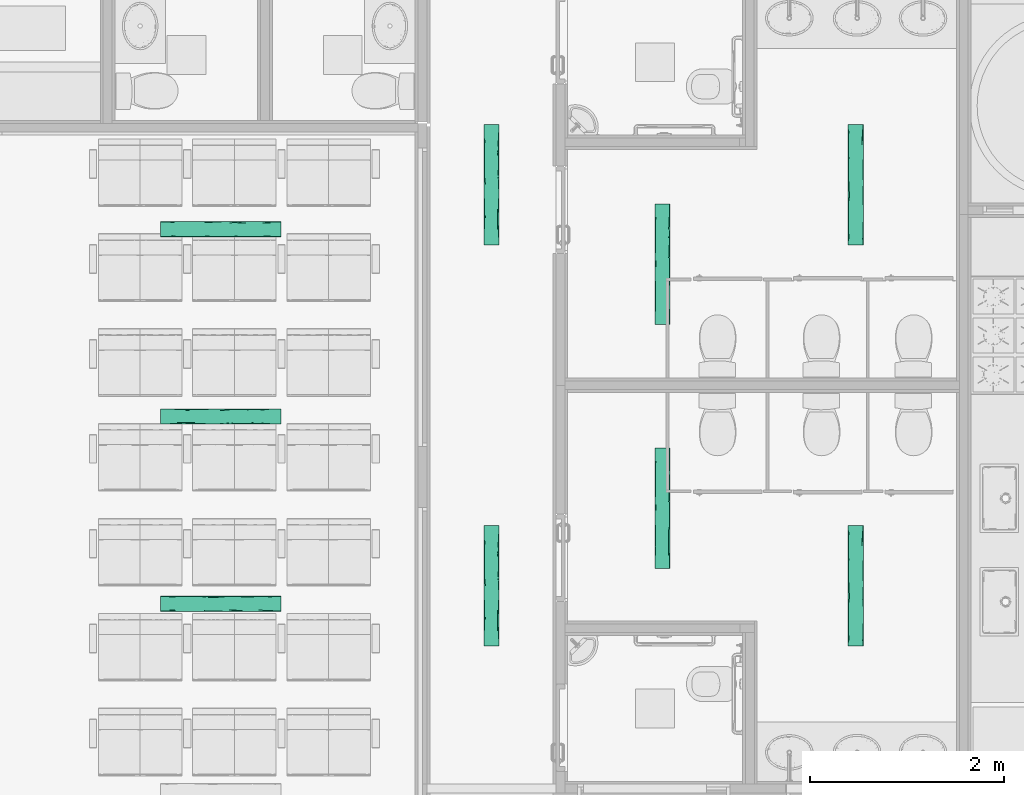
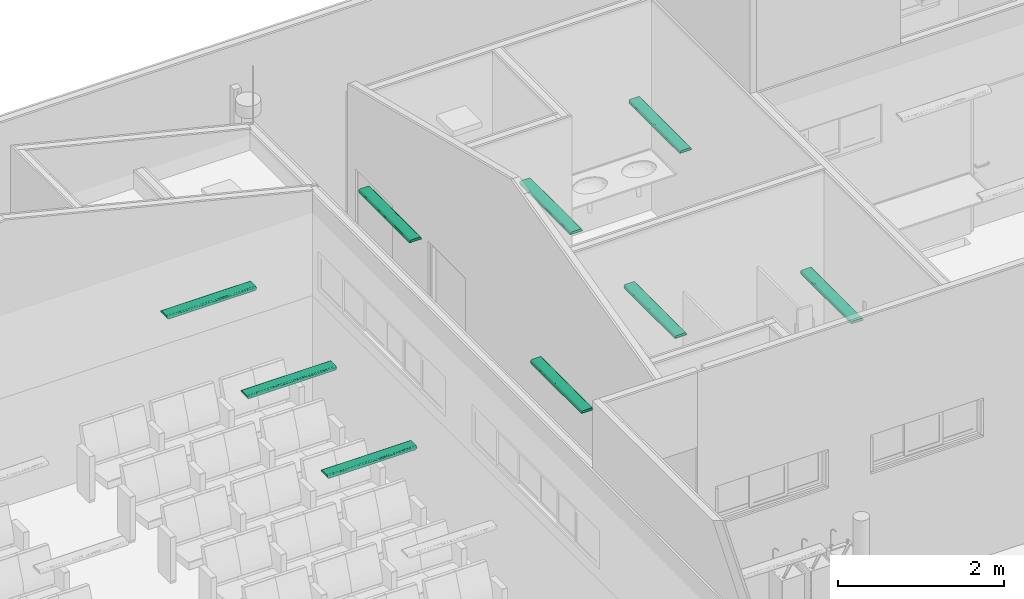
# One storey, part 62 of 155: 9 flow terminals.
"""IFC2X3 building model written with IfcOpenShell, lengths in metres."""

from ifc_helpers import new_model, entity, si_unit, converted_unit, derived_unit, direction, frame, origin, place, context, subcontext, project, spatial, faceted_brep, source, transform, mapped, material, material_list, type_object, type_shapes, element, save


model = new_model("IFC2X3")

# Units and contexts
model_context = context("Model", 3, precision=1e-05, world=origin(), true_north=direction((6.12303176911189e-17, 1.0)))
body_context = subcontext(model_context, "Body", "Model", "MODEL_VIEW")
ifc_project = project(units=[si_unit("LENGTHUNIT", "METRE"), si_unit("AREAUNIT", "SQUARE_METRE"), si_unit("VOLUMEUNIT", "CUBIC_METRE"), converted_unit("PLANEANGLEUNIT", "DEGREE", entity("IfcRatioMeasure", 0.0174532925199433), si_unit("PLANEANGLEUNIT", "RADIAN"), dimensions=[0, 0, 0, 0, 0, 0, 0]), si_unit("MASSUNIT", "GRAM", prefix="KILO"), derived_unit("MASSDENSITYUNIT", [(si_unit("MASSUNIT", "GRAM", prefix="KILO"), 1), (si_unit("LENGTHUNIT", "METRE"), -3)]), si_unit("TIMEUNIT", "SECOND"), si_unit("FREQUENCYUNIT", "HERTZ"), si_unit("THERMODYNAMICTEMPERATUREUNIT", "DEGREE_CELSIUS"), derived_unit("THERMALTRANSMITTANCEUNIT", [(si_unit("MASSUNIT", "GRAM", prefix="KILO"), 1), (si_unit("THERMODYNAMICTEMPERATUREUNIT", "KELVIN"), -1), (si_unit("TIMEUNIT", "SECOND"), -3)]), derived_unit("VOLUMETRICFLOWRATEUNIT", [(si_unit("LENGTHUNIT", "METRE"), 3), (si_unit("TIMEUNIT", "SECOND"), -1)]), si_unit("ELECTRICCURRENTUNIT", "AMPERE"), si_unit("ELECTRICVOLTAGEUNIT", "VOLT"), si_unit("POWERUNIT", "WATT"), si_unit("FORCEUNIT", "NEWTON", prefix="KILO"), si_unit("ILLUMINANCEUNIT", "LUX"), si_unit("LUMINOUSFLUXUNIT", "LUMEN"), si_unit("LUMINOUSINTENSITYUNIT", "CANDELA"), derived_unit("USERDEFINED", [(si_unit("MASSUNIT", "GRAM", prefix="KILO"), -1), (si_unit("LENGTHUNIT", "METRE"), -2), (si_unit("TIMEUNIT", "SECOND"), 3), (si_unit("LUMINOUSFLUXUNIT", "LUMEN"), 1)]), derived_unit("LINEARVELOCITYUNIT", [(si_unit("LENGTHUNIT", "METRE"), 1), (si_unit("TIMEUNIT", "SECOND"), -1)]), si_unit("PRESSUREUNIT", "PASCAL"), derived_unit("USERDEFINED", [(si_unit("LENGTHUNIT", "METRE"), -2), (si_unit("MASSUNIT", "GRAM", prefix="KILO"), 1), (si_unit("TIMEUNIT", "SECOND"), -2)])], contexts=[model_context])

# Site, building, storey, space
site_placement = place(None, frame((26.9889013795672, -17.5624287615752, 0.0)))
site = spatial("IfcSite", under=ifc_project, at=site_placement, Name="Default", CompositionType="ELEMENT")
building_placement = place(site_placement, origin())
building = spatial("IfcBuilding", under=site, at=building_placement, Name="C. C. L. Monsenhor Antônio Sampaio", CompositionType="ELEMENT")
storey_placement = place(building_placement, frame((0.0, 0.0, 1.19999999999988)))
storey = spatial("IfcBuildingStorey", under=building, at=storey_placement, Name="Nível 1.2", CompositionType="ELEMENT", Elevation=1.19999999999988)
space_1_placement = place(storey_placement, origin())
space_1 = spatial("IfcSpace", under=storey, at=space_1_placement, Name="94", CompositionType="ELEMENT", InteriorOrExteriorSpace="INTERNAL")

# Flow terminals
ifc_material_1 = material(Name="glass - blue - t85")
ifc_material_2 = material(Name="metal - aluminium")
ifc_material_list_1 = material_list([ifc_material_1, ifc_material_2])
ifc_material_list_2 = material_list([ifc_material_1, ifc_material_2])
light_fixture_type = type_object("IfcLightFixtureType", Name="BCS460 W16L124 1xLED24/840 MLO-PC", PredefinedType="NOTDEFINED", material=ifc_material_list_2)
shared_shape = source(origin(), body_context, "Body", "Brep", [
    faceted_brep([(0.585000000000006, 0.0435000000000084, -0.0460000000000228), (0.585000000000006, -0.0434999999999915, -0.0460000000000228), (0.585000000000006, -0.0434999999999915, -0.0490000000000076), (0.585000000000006, 0.0435000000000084, -0.0490000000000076), (-0.584999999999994, 0.0435000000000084, -0.0460000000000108), (-0.584999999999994, 0.0435000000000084, -0.0489999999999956), (-0.584999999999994, -0.0434999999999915, -0.0489999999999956), (-0.584999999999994, -0.0434999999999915, -0.0460000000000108)], [[[0, 1, 2, 3]], [[4, 5, 6, 7]], [[3, 5, 4, 0]], [[2, 6, 5, 3]], [[1, 7, 6, 2]], [[0, 4, 7, 1]]]),
    faceted_brep([(-0.584999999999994, -0.0434999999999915, -0.0489999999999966), (0.585000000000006, -0.0434999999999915, -0.0490000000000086), (0.585000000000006, -0.0554999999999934, -0.0490000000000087), (0.417543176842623, -0.0554999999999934, -0.0490000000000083), (0.334912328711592, -0.0554999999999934, -0.0490000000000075), (0.209867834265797, -0.0554999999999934, -0.0490000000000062), (0.0848246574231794, -0.0554999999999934, -0.0490000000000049), (-0.0826321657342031, -0.0554999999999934, -0.0490000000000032), (-0.250087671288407, -0.0554999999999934, -0.0490000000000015), (-0.417543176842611, -0.0554999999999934, -0.0489999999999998), (-0.584999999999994, -0.0554999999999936, -0.0489999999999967), (-0.584999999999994, 0.0435000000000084, -0.0489999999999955), (-0.584999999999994, 0.0555000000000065, -0.0489999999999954), (-0.417543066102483, 0.0555000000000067, -0.0489999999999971), (-0.334913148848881, 0.0555000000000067, -0.048999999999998), (-0.209868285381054, 0.0555000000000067, -0.0489999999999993), (-0.0848248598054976, 0.0555000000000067, -0.0490000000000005), (0.0826306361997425, 0.0555000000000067, -0.0490000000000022), (0.250087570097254, 0.0555000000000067, -0.049000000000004), (0.417544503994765, 0.0555000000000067, -0.0490000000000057), (0.585000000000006, 0.0555000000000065, -0.0490000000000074), (0.585000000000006, 0.0435000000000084, -0.0490000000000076), (0.585000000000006, -0.0434999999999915, -0.0190000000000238), (0.585000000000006, 0.0435000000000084, -0.0190000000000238), (0.585000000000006, 0.0614528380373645, -0.0482162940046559), (0.585000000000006, 0.0670000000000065, -0.0459185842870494), (0.585000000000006, 0.0717634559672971, -0.0422634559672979), (0.585000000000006, 0.0754185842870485, -0.0375000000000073), (0.585000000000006, 0.077716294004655, -0.0319528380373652), (0.585000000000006, 0.0785000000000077, -0.0260000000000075), (0.585000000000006, 0.0785000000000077, 0.0), (0.585000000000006, -0.0784999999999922, 0.0), (0.585000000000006, -0.0784999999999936, -0.02600000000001), (0.585000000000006, -0.0777162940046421, -0.031952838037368), (0.585000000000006, -0.0754185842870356, -0.03750000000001), (0.585000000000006, -0.0717634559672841, -0.0422634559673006), (0.585000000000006, -0.0669999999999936, -0.0459185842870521), (0.585000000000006, -0.0614528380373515, -0.0482162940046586), (-0.584999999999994, 0.0435000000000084, -0.0190000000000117), (-0.584999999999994, -0.0434999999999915, -0.0190000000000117), (-0.584999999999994, -0.0614528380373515, -0.0482162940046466), (-0.584999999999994, -0.0669999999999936, -0.0459185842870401), (-0.584999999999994, -0.0717634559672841, -0.0422634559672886), (-0.584999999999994, -0.0754185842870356, -0.037499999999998), (-0.584999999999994, -0.0777162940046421, -0.031952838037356), (-0.584999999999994, -0.0784999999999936, -0.025999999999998), (-0.584999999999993, -0.0784999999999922, 0.0), (-0.584999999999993, 0.0785000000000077, 0.0), (-0.584999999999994, 0.0785000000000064, -0.0259999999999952), (-0.584999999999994, 0.077716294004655, -0.0319528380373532), (-0.584999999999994, 0.0754185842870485, -0.0374999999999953), (-0.584999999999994, 0.0717634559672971, -0.0422634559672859), (-0.584999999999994, 0.0670000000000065, -0.0459185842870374), (-0.584999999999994, 0.0614528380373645, -0.0482162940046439), (0.417543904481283, 0.0785000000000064, -0.0260000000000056), (0.334912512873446, 0.0785000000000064, -0.0260000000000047), (0.209868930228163, 0.0785000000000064, -0.0260000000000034), (0.0848250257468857, 0.0785000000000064, -0.0260000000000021), (-0.0826310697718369, 0.0785000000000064, -0.0260000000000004), (-0.250087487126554, 0.0785000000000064, -0.0259999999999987), (-0.417543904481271, 0.0785000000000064, -0.025999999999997), (-0.430283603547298, 0.073747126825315, -0.0400015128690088), (-0.39346878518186, 0.069501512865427, -0.0442471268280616), (-0.441987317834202, 0.0643017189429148, -0.0472492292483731), (-0.435801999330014, 0.0759760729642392, -0.0364752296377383), (0.43028360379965, 0.0695015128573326, -0.0442471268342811), (0.393468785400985, 0.0737471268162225, -0.0400015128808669), (-0.166359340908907, 0.0777768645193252, -0.0317220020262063), (-0.333815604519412, 0.078144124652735, -0.0300303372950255), (0.441987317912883, 0.0767492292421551, -0.0348017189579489), (0.376228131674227, 0.0780233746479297, -0.0306580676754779), (-0.0103058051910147, 0.0779837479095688, -0.0308457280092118), (0.147346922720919, 0.0778835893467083, -0.0312891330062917), (0.0846877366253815, 0.0752228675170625, -0.0378325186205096), (0.113930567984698, 0.0669406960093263, -0.0459527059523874), (0.259392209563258, 0.0628104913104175, -0.0478072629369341), (0.138751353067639, 0.0626656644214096, -0.0478552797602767), (-0.327642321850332, 0.0767492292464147, -0.0348017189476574), (-0.44845841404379, 0.0775260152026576, -0.0326222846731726), (0.274715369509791, 0.0767492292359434, -0.0348017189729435), (0.37104983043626, 0.0643017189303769, -0.0472492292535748), (0.333815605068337, 0.0596187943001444, -0.0486282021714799), (0.0893720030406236, 0.0707479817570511, -0.0432191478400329), (-0.0153938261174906, 0.0683034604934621, -0.0451068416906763), (-0.376228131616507, 0.0601580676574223, -0.0485233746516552), (0.0434325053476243, 0.059742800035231, -0.048605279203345), (0.218757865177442, 0.0695015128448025, -0.0442471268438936), (0.464656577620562, 0.0597129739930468, -0.0486108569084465), (0.199843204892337, 0.0732493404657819, -0.0406274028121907), (-0.274715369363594, 0.0643017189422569, -0.0472492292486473), (-0.115235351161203, 0.073747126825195, -0.0400015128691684), (-0.150791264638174, 0.070206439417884, -0.0436839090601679), (-0.272759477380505, 0.0724713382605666, -0.0415233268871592), (-0.00814072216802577, 0.0636892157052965, -0.0474927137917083), (-0.14734692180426, 0.0607891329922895, -0.0483835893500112), (-0.269938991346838, 0.0692956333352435, -0.0444032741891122), (-0.201904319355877, 0.0758204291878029, -0.0367740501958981), (-0.0663340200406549, 0.0763921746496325, -0.0356185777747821), (-0.139314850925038, 0.066006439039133, -0.046460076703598), (-0.430283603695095, -0.0695015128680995, -0.0442471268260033), (-0.393468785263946, -0.073747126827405, -0.0400015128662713), (-0.44198731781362, -0.0767492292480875, -0.0348017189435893), (-0.435801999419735, -0.06597522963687, -0.0464760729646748), (0.430283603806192, -0.0737471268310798, -0.0400015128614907), (0.393468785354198, -0.0695015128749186, -0.0442471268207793), (-0.166359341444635, -0.061222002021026, -0.0482768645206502), (-0.333815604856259, -0.0595303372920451, -0.0486441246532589), (0.441987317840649, -0.0643017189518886, -0.0472492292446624), (0.37622813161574, -0.0601580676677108, -0.0485233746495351), (-0.0103058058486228, -0.0603457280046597, -0.0484837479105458), (0.147346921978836, -0.0607891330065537, -0.0483835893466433), (0.0846877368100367, -0.0673325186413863, -0.0457228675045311), (0.113930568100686, -0.0754527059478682, -0.0374406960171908), (0.259392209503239, -0.0773072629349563, -0.0333104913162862), (0.138751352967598, -0.0773552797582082, -0.0331656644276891), (-0.327642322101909, -0.0643017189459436, -0.047249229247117), (-0.448458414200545, -0.062122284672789, -0.048026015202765), (-0.417543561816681, -0.0784999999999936, -0.0259999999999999), (0.274715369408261, -0.0643017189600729, -0.0472492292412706), (0.371049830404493, -0.0767492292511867, -0.0348017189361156), (0.333815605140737, -0.0781282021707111, -0.0301187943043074), (0.250087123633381, -0.0784999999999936, -0.0260000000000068), (0.0893720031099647, -0.0727191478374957, -0.041247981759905), (-0.0153938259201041, -0.074606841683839, -0.0388034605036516), (-0.376228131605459, -0.0780233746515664, -0.0306580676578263), (0.0826306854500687, -0.0784999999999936, -0.026000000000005), (-0.0848257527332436, -0.0784999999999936, -0.0260000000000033), (0.0434325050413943, -0.0781052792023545, -0.030242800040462), (0.417543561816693, -0.0784999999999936, -0.0260000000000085), (0.21875786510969, -0.0737471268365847, -0.0400015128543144), (0.464656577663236, -0.0781108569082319, -0.0302129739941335), (0.19984320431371, -0.0701274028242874, -0.0437493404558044), (-0.274715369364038, -0.0767492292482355, -0.0348017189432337), (-0.115235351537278, -0.0695015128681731, -0.0442471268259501), (-0.150791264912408, -0.0731839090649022, -0.0407064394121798), (-0.209869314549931, -0.0784999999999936, -0.026000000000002), (-0.334912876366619, -0.0784999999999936, -0.0260000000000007), (-0.272759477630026, -0.071023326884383, -0.0429713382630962), (-0.00814072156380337, -0.0769927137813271, -0.0341892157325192), (-0.147346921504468, -0.0778835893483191, -0.03128913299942), (-0.269938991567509, -0.0739032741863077, -0.0397956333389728), (-0.201904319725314, -0.0662740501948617, -0.0463204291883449), (-0.0663340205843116, -0.0651185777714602, -0.0468921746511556), (-0.139314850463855, -0.0759600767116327, -0.0365064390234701)], [[[0, 1, 2, 3, 4, 5, 6, 7, 8, 9, 10]], [[11, 12, 13, 14, 15, 16, 17, 18, 19, 20, 21]], [[22, 23, 21, 20, 24, 25, 26, 27, 28, 29, 30, 31, 32, 33, 34, 35, 36, 37, 2, 1]], [[12, 11, 38, 39, 0, 10, 40, 41, 42, 43, 44, 45, 46, 47, 48, 49, 50, 51, 52, 53]], [[47, 30, 29, 54, 55, 56, 57, 58, 59, 60, 48]], [[61, 51, 50]], [[62, 51, 61]], [[51, 62, 52]], [[62, 63, 52]], [[63, 53, 52]], [[61, 50, 64]], [[26, 65, 66]], [[26, 25, 65]], [[54, 29, 28]], [[67, 68, 59]], [[69, 70, 28]], [[71, 72, 73]], [[74, 75, 76]], [[26, 66, 27]], [[77, 78, 68]], [[13, 12, 53]], [[69, 27, 66]], [[79, 73, 72]], [[24, 80, 25]], [[70, 79, 72]], [[69, 28, 27]], [[75, 81, 18]], [[82, 74, 83]], [[63, 84, 53]], [[17, 16, 85]], [[19, 18, 81]], [[75, 74, 86]], [[87, 81, 80]], [[73, 79, 88]], [[70, 56, 55, 54]], [[80, 86, 65]], [[89, 63, 62]], [[90, 83, 91]], [[84, 15, 14, 13]], [[61, 77, 92]], [[59, 68, 60]], [[78, 49, 48]], [[20, 87, 24]], [[93, 76, 85]], [[66, 65, 86]], [[65, 25, 80]], [[62, 61, 92]], [[77, 64, 78]], [[92, 90, 91]], [[89, 94, 84]], [[28, 70, 54]], [[79, 69, 66]], [[53, 84, 13]], [[91, 95, 92]], [[96, 90, 92]], [[56, 72, 57]], [[70, 69, 79]], [[70, 72, 56]], [[67, 59, 58]], [[71, 67, 58]], [[71, 58, 57]], [[83, 90, 82]], [[88, 82, 73]], [[96, 97, 90]], [[71, 73, 97]], [[15, 94, 16]], [[84, 63, 89]], [[84, 94, 15]], [[98, 83, 93]], [[83, 98, 91]], [[18, 17, 76]], [[62, 92, 95]], [[98, 95, 91]], [[98, 94, 89]], [[74, 76, 93]], [[93, 94, 98]], [[85, 16, 94]], [[19, 81, 87]], [[80, 81, 75]], [[19, 87, 20]], [[24, 87, 80]], [[78, 48, 60]], [[77, 68, 67]], [[68, 78, 60]], [[49, 78, 50]], [[78, 64, 50]], [[64, 77, 61]], [[94, 93, 85]], [[85, 76, 17]], [[97, 67, 71]], [[72, 71, 57]], [[77, 67, 96]], [[90, 97, 73]], [[97, 96, 67]], [[77, 96, 92]], [[80, 75, 86]], [[76, 75, 18]], [[95, 89, 62]], [[89, 95, 98]], [[86, 74, 82]], [[83, 74, 93]], [[86, 82, 88]], [[73, 82, 90]], [[88, 66, 86]], [[66, 88, 79]], [[99, 42, 41]], [[100, 42, 99]], [[42, 100, 43]], [[100, 101, 43]], [[101, 44, 43]], [[99, 41, 102]], [[35, 103, 104]], [[35, 34, 103]], [[3, 2, 37]], [[105, 106, 8]], [[107, 108, 37]], [[109, 110, 111]], [[112, 113, 114]], [[35, 104, 36]], [[115, 116, 106]], [[117, 45, 44]], [[107, 36, 104]], [[118, 111, 110]], [[33, 119, 34]], [[108, 118, 110]], [[107, 37, 36]], [[113, 120, 121]], [[122, 112, 123]], [[101, 124, 44]], [[125, 126, 127]], [[128, 121, 120]], [[113, 112, 129]], [[130, 120, 119]], [[111, 118, 131]], [[108, 5, 4, 3]], [[119, 129, 103]], [[132, 101, 100]], [[133, 123, 134]], [[124, 135, 136, 117]], [[99, 115, 137]], [[8, 106, 9]], [[116, 40, 10]], [[32, 130, 33]], [[138, 114, 127]], [[104, 103, 129]], [[103, 34, 119]], [[100, 99, 137]], [[115, 102, 116]], [[137, 133, 134]], [[132, 139, 124]], [[37, 108, 3]], [[118, 107, 104]], [[44, 124, 117]], [[134, 140, 137]], [[141, 133, 137]], [[5, 110, 6]], [[108, 107, 118]], [[108, 110, 5]], [[105, 8, 7]], [[109, 105, 7]], [[109, 7, 6]], [[123, 133, 122]], [[131, 122, 111]], [[141, 142, 133]], [[109, 111, 142]], [[135, 139, 126]], [[124, 101, 132]], [[124, 139, 135]], [[143, 123, 138]], [[123, 143, 134]], [[121, 125, 114]], [[100, 137, 140]], [[143, 140, 134]], [[143, 139, 132]], [[112, 114, 138]], [[138, 139, 143]], [[127, 126, 139]], [[128, 120, 130]], [[119, 120, 113]], [[128, 130, 32]], [[33, 130, 119]], [[116, 10, 9]], [[115, 106, 105]], [[106, 116, 9]], [[40, 116, 41]], [[116, 102, 41]], [[102, 115, 99]], [[139, 138, 127]], [[127, 114, 125]], [[142, 105, 109]], [[110, 109, 6]], [[115, 105, 141]], [[133, 142, 111]], [[142, 141, 105]], [[115, 141, 137]], [[119, 113, 129]], [[114, 113, 121]], [[140, 132, 100]], [[132, 140, 143]], [[129, 112, 122]], [[123, 112, 138]], [[129, 122, 131]], [[111, 122, 133]], [[131, 104, 129]], [[104, 131, 118]], [[31, 46, 45, 117, 136, 135, 126, 125, 121, 128, 32]], [[46, 31, 30, 47]], [[21, 23, 38, 11]], [[22, 1, 0, 39]], [[23, 22, 39, 38]]]),
    faceted_brep([(0.597000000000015, 0.0785000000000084, 0.0), (0.602952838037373, 0.0785000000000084, -0.000783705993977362), (0.608500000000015, 0.0785000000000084, -0.00308141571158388), (0.613263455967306, 0.0785000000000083, -0.00673654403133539), (0.616918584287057, 0.0785000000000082, -0.011499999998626), (0.619216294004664, 0.0785000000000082, -0.017047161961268), (0.620000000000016, 0.0785000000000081, -0.0229999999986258), (0.620000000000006, 0.0785000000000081, -0.0259999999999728), (0.585000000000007, 0.0785000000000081, -0.0259999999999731), (0.585000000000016, 0.0785000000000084, 0.0), (0.619216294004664, -0.0784999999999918, -0.0170471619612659), (0.616918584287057, -0.0784999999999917, -0.0114999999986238), (0.613263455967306, -0.0784999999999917, -0.00673654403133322), (0.608500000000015, -0.0784999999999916, -0.00308141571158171), (0.602952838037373, -0.0784999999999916, -0.000783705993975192), (0.597000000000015, -0.0784999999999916, 0.0), (0.585000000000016, -0.0784999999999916, 0.0), (0.585000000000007, -0.0784999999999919, -0.0260000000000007), (0.620000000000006, -0.0784999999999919, -0.0260000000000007), (0.620000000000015, -0.0784999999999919, -0.0229999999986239), (0.620000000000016, 0.0669999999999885, -0.0459185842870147), (0.620000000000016, 0.0717634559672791, -0.0422634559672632), (0.620000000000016, 0.0754185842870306, -0.0374999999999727), (0.620000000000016, 0.0777162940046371, -0.0319528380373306), (0.620000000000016, -0.0777162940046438, -0.0319528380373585), (0.620000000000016, -0.0754185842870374, -0.0375000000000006), (0.620000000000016, -0.071763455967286, -0.0422634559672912), (0.620000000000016, -0.0669999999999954, -0.0459185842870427), (0.620000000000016, -0.0614528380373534, -0.0482162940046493), (0.620000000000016, -0.0554999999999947, -0.0489999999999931), (0.620000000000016, 0.0554999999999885, -0.0489999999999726), (0.620000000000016, 0.0614528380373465, -0.0482162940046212), (0.585000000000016, 0.0554999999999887, -0.048999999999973), (0.585000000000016, -0.0554999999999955, -0.0490000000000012), (0.585000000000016, -0.0614528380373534, -0.0482162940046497), (0.585000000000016, -0.0669999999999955, -0.0459185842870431), (0.585000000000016, -0.071763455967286, -0.0422634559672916), (0.585000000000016, -0.0754185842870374, -0.0375000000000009), (0.585000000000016, -0.0777162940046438, -0.0319528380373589), (0.585000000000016, 0.0777162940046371, -0.031952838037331), (0.585000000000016, 0.0754185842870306, -0.037499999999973), (0.585000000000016, 0.0717634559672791, -0.0422634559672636), (0.585000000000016, 0.0669999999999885, -0.0459185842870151), (0.585000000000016, 0.0614528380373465, -0.0482162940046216)], [[[0, 1, 2, 3, 4, 5, 6, 7, 8, 9]], [[10, 11, 12, 13, 14, 15, 16, 17, 18, 19]], [[20, 21, 22, 23, 7, 6, 19, 18, 24, 25, 26, 27, 28, 29, 30, 31]], [[32, 33, 34, 35, 36, 37, 38, 17, 16, 9, 8, 39, 40, 41, 42, 43]], [[16, 15, 0, 9]], [[11, 10, 5, 4]], [[12, 11, 4, 3]], [[6, 5, 10, 19]], [[14, 13, 2, 1]], [[15, 14, 1, 0]], [[2, 13, 12, 3]], [[43, 31, 30, 32]], [[43, 42, 20, 31]], [[21, 20, 42, 41]], [[23, 22, 40, 39]], [[7, 23, 39, 8]], [[40, 22, 21, 41]], [[29, 33, 32, 30]], [[25, 24, 38, 37]], [[26, 25, 37, 36]], [[17, 38, 24, 18]], [[28, 27, 35, 34]], [[29, 28, 34, 33]], [[35, 27, 26, 36]]]),
    faceted_brep([(-0.608499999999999, 0.0785000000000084, -0.00308141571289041), (-0.602952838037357, 0.0785000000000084, -0.000783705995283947), (-0.597, 0.0785000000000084, 0.0), (-0.584999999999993, 0.0785000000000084, 0.0), (-0.584999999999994, 0.0785000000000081, -0.0260000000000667), (-0.619999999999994, 0.0785000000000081, -0.0260000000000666), (-0.619999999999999, 0.0785000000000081, -0.0229999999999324), (-0.619216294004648, 0.0785000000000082, -0.0170471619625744), (-0.616918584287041, 0.0785000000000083, -0.0114999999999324), (-0.61326345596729, 0.0785000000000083, -0.00673654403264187), (-0.584999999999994, -0.0784999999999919, -0.0260000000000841), (-0.584999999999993, -0.0784999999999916, 0.0), (-0.596999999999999, -0.0784999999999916, 0.0), (-0.602952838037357, -0.0784999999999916, -0.000783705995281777), (-0.608499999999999, -0.0784999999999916, -0.00308141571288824), (-0.61326345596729, -0.0784999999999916, -0.0067365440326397), (-0.616918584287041, -0.0784999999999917, -0.0114999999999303), (-0.619216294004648, -0.0784999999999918, -0.0170471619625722), (-0.619999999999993, -0.0784999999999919, -0.0229999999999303), (-0.619999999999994, -0.0784999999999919, -0.0260000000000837), (-0.619999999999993, 0.0777162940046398, -0.0319528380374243), (-0.619999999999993, 0.0754185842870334, -0.0375000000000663), (-0.619999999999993, 0.071763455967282, -0.042263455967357), (-0.619999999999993, 0.0669999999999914, -0.0459185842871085), (-0.619999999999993, 0.0614528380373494, -0.048216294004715), (-0.619999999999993, 0.0554999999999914, -0.0490000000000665), (-0.619999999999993, -0.0554999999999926, -0.0490000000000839), (-0.619999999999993, -0.0614528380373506, -0.0482162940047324), (-0.619999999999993, -0.0669999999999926, -0.0459185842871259), (-0.619999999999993, -0.0717634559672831, -0.0422634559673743), (-0.619999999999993, -0.0754185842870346, -0.0375000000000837), (-0.619999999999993, -0.0777162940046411, -0.0319528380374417), (-0.584999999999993, 0.0614528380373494, -0.0482162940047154), (-0.584999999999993, 0.0669999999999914, -0.0459185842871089), (-0.584999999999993, 0.071763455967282, -0.0422634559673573), (-0.584999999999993, 0.0754185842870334, -0.0375000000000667), (-0.584999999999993, 0.0777162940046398, -0.0319528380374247), (-0.584999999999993, -0.0777162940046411, -0.0319528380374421), (-0.584999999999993, -0.0754185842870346, -0.0375000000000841), (-0.584999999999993, -0.0717634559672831, -0.0422634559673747), (-0.584999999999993, -0.0669999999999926, -0.0459185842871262), (-0.584999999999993, -0.0614528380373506, -0.0482162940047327), (-0.584999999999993, -0.0554999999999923, -0.0490000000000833), (-0.584999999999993, 0.0554999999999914, -0.0490000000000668)], [[[0, 1, 2, 3, 4, 5, 6, 7, 8, 9]], [[10, 11, 12, 13, 14, 15, 16, 17, 18, 19]], [[5, 20, 21, 22, 23, 24, 25, 26, 27, 28, 29, 30, 31, 19, 18, 6]], [[32, 33, 34, 35, 36, 4, 3, 11, 10, 37, 38, 39, 40, 41, 42, 43]], [[12, 11, 3, 2]], [[14, 13, 1, 0]], [[15, 14, 0, 9]], [[2, 1, 13, 12]], [[17, 16, 8, 7]], [[18, 17, 7, 6]], [[8, 16, 15, 9]], [[22, 21, 35, 34]], [[36, 20, 5, 4]], [[21, 20, 36, 35]], [[24, 23, 33, 32]], [[25, 24, 32, 43]], [[33, 23, 22, 34]], [[26, 25, 43, 42]], [[28, 27, 41, 40]], [[29, 28, 40, 39]], [[42, 41, 27, 26]], [[31, 30, 38, 37]], [[19, 31, 37, 10]], [[38, 30, 29, 39]]]),
])
type_shapes(light_fixture_type, [shared_shape])
flow_terminal_1_placement = place(space_1_placement, frame((-7.9905522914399, -14.9270663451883, 2.8), z_axis=(0.0, 0.0, -1.0), x_axis=(-1.0, 0.0, 0.0)))
element("IfcFlowTerminal", 1, at=flow_terminal_1_placement, inside=space_1, type_object=light_fixture_type, material=ifc_material_list_1, Name="63_PHILIPS_smartform-LED-surface_f:BCS460 W16L124 1xLED24/840 MLO-PC", ObjectType="BCS460 W16L124 1xLED24/840 MLO-PC", context=body_context, shape_type="MappedRepresentation", body=[
    mapped(shared_shape, transform((0.0, 0.0, 0.0), scale=1.0)),
])
ifc_material_list_3 = material_list([ifc_material_1, ifc_material_2])
flow_terminal_2_placement = place(space_1_placement, frame((-7.9905522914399, -12.9990663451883, 2.8), z_axis=(0.0, 0.0, -1.0), x_axis=(-1.0, 0.0, 0.0)))
element("IfcFlowTerminal", 2, at=flow_terminal_2_placement, inside=space_1, type_object=light_fixture_type, material=ifc_material_list_3, Name="63_PHILIPS_smartform-LED-surface_f:BCS460 W16L124 1xLED24/840 MLO-PC", ObjectType="BCS460 W16L124 1xLED24/840 MLO-PC", context=body_context, shape_type="MappedRepresentation", body=[
    mapped(shared_shape, transform((0.0, 0.0, 0.0), scale=1.0)),
])
ifc_material_list_4 = material_list([ifc_material_1, ifc_material_2])
flow_terminal_3_placement = place(space_1_placement, frame((-7.9905522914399, -11.0710663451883, 2.8), z_axis=(0.0, 0.0, -1.0), x_axis=(-1.0, 0.0, 0.0)))
element("IfcFlowTerminal", 3, at=flow_terminal_3_placement, inside=space_1, type_object=light_fixture_type, material=ifc_material_list_4, Name="63_PHILIPS_smartform-LED-surface_f:BCS460 W16L124 1xLED24/840 MLO-PC", ObjectType="BCS460 W16L124 1xLED24/840 MLO-PC", context=body_context, shape_type="MappedRepresentation", body=[
    mapped(shared_shape, transform((0.0, 0.0, 0.0), scale=1.0)),
])

# Space
space_2_placement = place(storey_placement, origin())
space_2 = spatial("IfcSpace", under=storey, at=space_2_placement, Name="92", CompositionType="ELEMENT", InteriorOrExteriorSpace="INTERNAL")

# Flow terminal
ifc_material_list_5 = material_list([ifc_material_1, ifc_material_2])
flow_terminal_4_placement = place(space_2_placement, frame((-3.44636991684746, -11.432400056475, 2.8), z_axis=(0.0, 0.0, -1.0), x_axis=(0.0, -1.0, 0.0)))
element("IfcFlowTerminal", 4, at=flow_terminal_4_placement, inside=space_2, type_object=light_fixture_type, material=ifc_material_list_5, Name="63_PHILIPS_smartform-LED-surface_f:BCS460 W16L124 1xLED24/840 MLO-PC", ObjectType="BCS460 W16L124 1xLED24/840 MLO-PC", context=body_context, shape_type="MappedRepresentation", body=[
    mapped(shared_shape, transform((0.0, 0.0, 0.0), scale=1.0)),
])

# Space
space_3_placement = place(storey_placement, origin())
space_3 = spatial("IfcSpace", under=storey, at=space_3_placement, Name="93", CompositionType="ELEMENT", InteriorOrExteriorSpace="INTERNAL")

# Flow terminals
ifc_material_list_6 = material_list([ifc_material_1, ifc_material_2])
flow_terminal_5_placement = place(space_3_placement, frame((-3.44636991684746, -13.9427033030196, 2.8), z_axis=(0.0, 0.0, -1.0), x_axis=(0.0, -1.0, 0.0)))
element("IfcFlowTerminal", 5, at=flow_terminal_5_placement, inside=space_3, type_object=light_fixture_type, material=ifc_material_list_6, Name="63_PHILIPS_smartform-LED-surface_f:BCS460 W16L124 1xLED24/840 MLO-PC", ObjectType="BCS460 W16L124 1xLED24/840 MLO-PC", context=body_context, shape_type="MappedRepresentation", body=[
    mapped(shared_shape, transform((0.0, 0.0, 0.0), scale=1.0)),
])
ifc_material_list_7 = material_list([ifc_material_1, ifc_material_2])
flow_terminal_6_placement = place(space_2_placement, frame((-1.45636991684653, -10.6130663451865, 2.8), z_axis=(0.0, 0.0, -1.0), x_axis=(0.0, -1.0, 0.0)))
element("IfcFlowTerminal", 6, at=flow_terminal_6_placement, inside=space_2, type_object=light_fixture_type, material=ifc_material_list_7, Name="63_PHILIPS_smartform-LED-surface_f:BCS460 W16L124 1xLED24/840 MLO-PC", ObjectType="BCS460 W16L124 1xLED24/840 MLO-PC", context=body_context, shape_type="MappedRepresentation", body=[
    mapped(shared_shape, transform((0.0, 0.0, 0.0), scale=1.0)),
])
ifc_material_list_8 = material_list([ifc_material_1, ifc_material_2])
flow_terminal_7_placement = place(space_3_placement, frame((-1.45636991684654, -14.7430744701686, 2.8), z_axis=(0.0, 0.0, -1.0), x_axis=(0.0, -1.0, 0.0)))
element("IfcFlowTerminal", 7, at=flow_terminal_7_placement, inside=space_3, type_object=light_fixture_type, material=ifc_material_list_8, Name="63_PHILIPS_smartform-LED-surface_f:BCS460 W16L124 1xLED24/840 MLO-PC", ObjectType="BCS460 W16L124 1xLED24/840 MLO-PC", context=body_context, shape_type="MappedRepresentation", body=[
    mapped(shared_shape, transform((0.0, 0.0, 0.0), scale=1.0)),
])

# Space
space_4_placement = place(storey_placement, origin())
space_4 = spatial("IfcSpace", under=storey, at=space_4_placement, Name="102", CompositionType="ELEMENT", InteriorOrExteriorSpace="INTERNAL")

# Flow terminals
ifc_material_list_9 = material_list([ifc_material_1, ifc_material_2])
flow_terminal_8_placement = place(space_4_placement, frame((-5.20555229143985, -10.6130663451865, 2.8), z_axis=(0.0, 0.0, -1.0), x_axis=(0.0, -1.0, 0.0)))
element("IfcFlowTerminal", 8, at=flow_terminal_8_placement, inside=space_4, type_object=light_fixture_type, material=ifc_material_list_9, Name="63_PHILIPS_smartform-LED-surface_f:BCS460 W16L124 1xLED24/840 MLO-PC", ObjectType="BCS460 W16L124 1xLED24/840 MLO-PC", context=body_context, shape_type="MappedRepresentation", body=[
    mapped(shared_shape, transform((0.0, 0.0, 0.0), scale=1.0)),
])
ifc_material_list_10 = material_list([ifc_material_1, ifc_material_2])
flow_terminal_9_placement = place(space_4_placement, frame((-5.20555229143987, -14.7430744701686, 2.8), z_axis=(0.0, 0.0, -1.0), x_axis=(0.0, -1.0, 0.0)))
element("IfcFlowTerminal", 9, at=flow_terminal_9_placement, inside=space_4, type_object=light_fixture_type, material=ifc_material_list_10, Name="63_PHILIPS_smartform-LED-surface_f:BCS460 W16L124 1xLED24/840 MLO-PC", ObjectType="BCS460 W16L124 1xLED24/840 MLO-PC", context=body_context, shape_type="MappedRepresentation", body=[
    mapped(shared_shape, transform((0.0, 0.0, 0.0), scale=1.0)),
])

save(model, "model.ifc")
